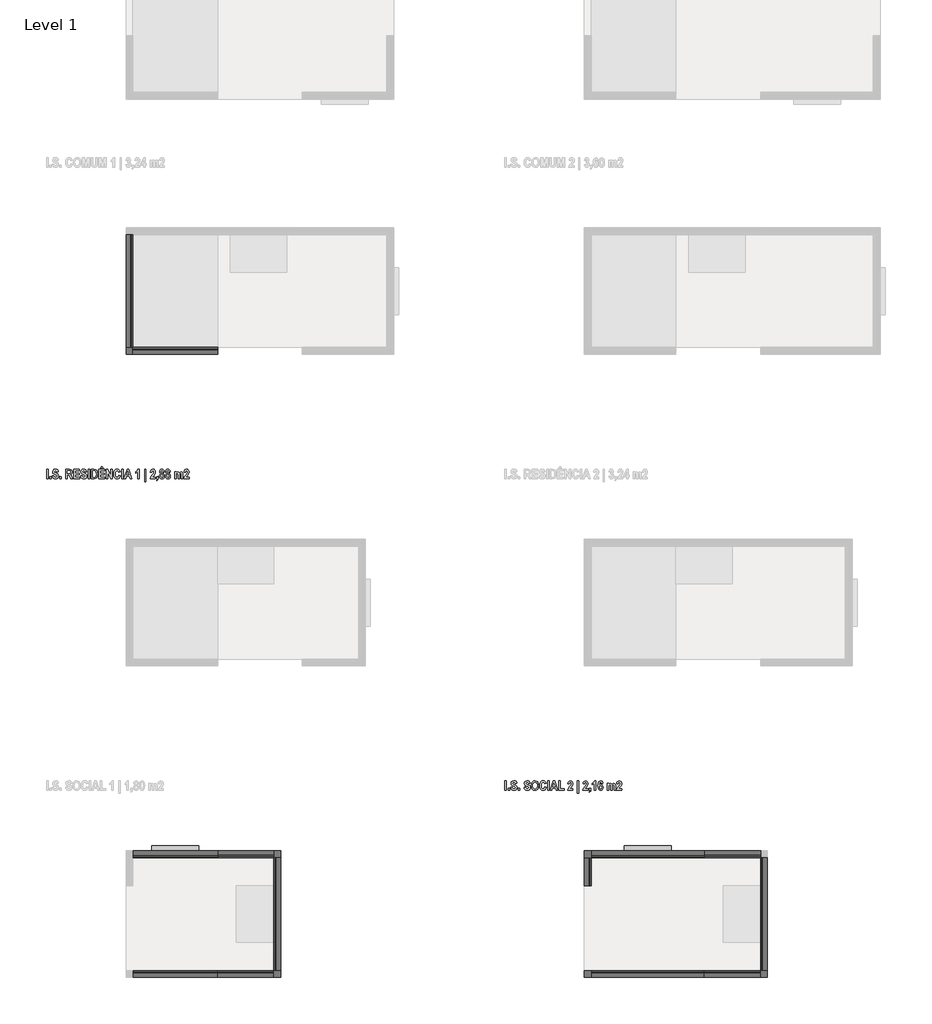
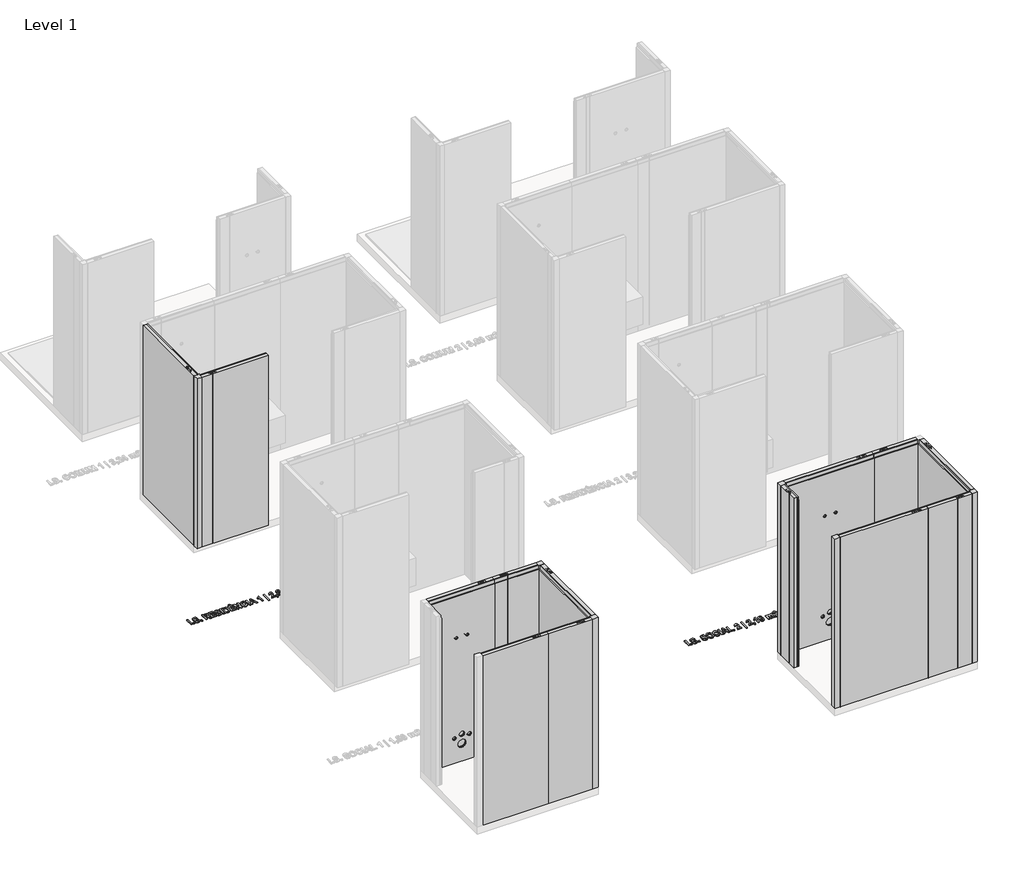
# One storey, part 2 of 10: 21 proxies.
"""IFC4 building model written with IfcOpenShell, lengths in millimetres."""

from ifc_helpers import new_model, si_unit, origin, origin_with_axes, place, context, project, spatial, polyline, outline, extrude, transform, mapped, element, save
from components import generic_models_3c551f1f, generic_models_aefc3c11, generic_models_87fa6935, generic_models_cf899abb, generic_models_87e237a0, generic_models_43d2ec2c, generic_models_7c24a650, generic_models_0c33305c, generic_models_edb91717

model = new_model("IFC4")

# Units and contexts
model_context = context("Model", 3, world=origin())
ifc_project = project(units=[si_unit("LENGTHUNIT", "METRE", prefix="MILLI")], contexts=[model_context])

# Site, building, storey
site = spatial("IfcSite", under=ifc_project)
building = spatial("IfcBuilding", under=site)
storey = spatial("IfcBuildingStorey", under=building, Name="Level 1", Elevation=0.0)

# Proxies
placement = place(None, origin())
generic_models_shape = generic_models_3c551f1f(model_context)
element("IfcBuildingElementProxy", 1, Name="ParedeGeral_Blufab : Parede Geral - Largura 60 cm", ObjectType="ParedeGeral_Blufab : Parede Geral - Largura 60 cm", at=placement, inside=storey, context=model_context, shape_type="MappedRepresentation", body=[
    mapped(generic_models_shape, transform((-7871.3404571, -5512.1726672, 0.0), x_axis=(1.0, 0.0, 0.0), y_axis=(0.0, 1.0, 0.0), z_axis=(0.0, 0.0, 1.0))),
])
element("IfcBuildingElementProxy", 2, Name="ParedeGeral_Blufab : Parede Geral - Largura 60 cm", ObjectType="ParedeGeral_Blufab : Parede Geral - Largura 60 cm", at=placement, inside=storey, context=model_context, shape_type="MappedRepresentation", body=[
    mapped(generic_models_shape, transform((-7271.3404571, -6712.1726672, 0.0), x_axis=(-1.0, 0.0, 0.0), y_axis=(0.0, -1.0, 0.0), z_axis=(0.0, 0.0, 1.0))),
])
element("IfcBuildingElementProxy", 3, Name="ParedeGeral_Blufab : Parede Geral - Largura 60 cm", ObjectType="ParedeGeral_Blufab : Parede Geral - Largura 60 cm", at=placement, inside=storey, context=model_context, shape_type="MappedRepresentation", body=[
    mapped(generic_models_shape, transform((-2696.3404571, -5512.1726672, 0.0), x_axis=(1.0, 0.0, 0.0), y_axis=(0.0, 1.0, 0.0), z_axis=(0.0, 0.0, 1.0))),
])
element("IfcBuildingElementProxy", 4, Name="ParedeGeral_Blufab : Parede Geral - Largura 60 cm", ObjectType="ParedeGeral_Blufab : Parede Geral - Largura 60 cm", at=placement, inside=storey, context=model_context, shape_type="MappedRepresentation", body=[
    mapped(generic_models_shape, transform((-2096.3404571, -6712.1726672, 0.0), x_axis=(-1.0, 0.0, 0.0), y_axis=(0.0, -1.0, 0.0), z_axis=(0.0, 0.0, 1.0))),
])
generic_models_2_shape = generic_models_aefc3c11(model_context)
element("IfcBuildingElementProxy", 5, Name="ParedeGeral_Blufab : Parede Geral - Largura 90 cm", ObjectType="ParedeGeral_Blufab : Parede Geral - Largura 90 cm", at=placement, inside=storey, context=model_context, shape_type="MappedRepresentation", body=[
    mapped(generic_models_2_shape, transform((-7871.3404571, -6712.1726672, 0.0), x_axis=(-1.0, 0.0, 0.0), y_axis=(0.0, -1.0, 0.0), z_axis=(0.0, 0.0, 1.0))),
])
generic_models_3_shape = generic_models_87fa6935(model_context)
element("IfcBuildingElementProxy", 6, Name="ParedeGeral_Blufab : Parede Geral - Largura 120 cm", ObjectType="ParedeGeral_Blufab : Parede Geral - Largura 120 cm", at=placement, inside=storey, context=model_context, shape_type="MappedRepresentation", body=[
    mapped(generic_models_3_shape, transform((-8771.3404571, -85.8090572, 0.0), x_axis=(0.0, 1.0, 0.0), y_axis=(-1.0, 0.0, 0.0), z_axis=(0.0, 0.0, 1.0))),
])
element("IfcBuildingElementProxy", 7, Name="ParedeGeral_Blufab : Parede Geral - Largura 120 cm", ObjectType="ParedeGeral_Blufab : Parede Geral - Largura 120 cm", at=placement, inside=storey, context=model_context, shape_type="MappedRepresentation", body=[
    mapped(generic_models_3_shape, transform((-2696.3404571, -6712.1726672, 0.0), x_axis=(-1.0, 0.0, 0.0), y_axis=(0.0, -1.0, 0.0), z_axis=(0.0, 0.0, 1.0))),
])
generic_models_4_shape = generic_models_cf899abb(model_context)
element("IfcBuildingElementProxy", 8, Name="ParedeLavatório_Blufab : Parede Lavatório - Largura 120 cm", ObjectType="ParedeLavatório_Blufab : Parede Lavatório - Largura 120 cm", at=placement, inside=storey, context=model_context, shape_type="MappedRepresentation", body=[
    mapped(generic_models_4_shape, transform((-7271.3404571, -5512.1726672, 0.0), x_axis=(0.0, -1.0, 0.0), y_axis=(1.0, 0.0, 0.0), z_axis=(0.0, 0.0, 1.0))),
])
element("IfcBuildingElementProxy", 9, Name="ParedeLavatório_Blufab : Parede Lavatório - Largura 120 cm", ObjectType="ParedeLavatório_Blufab : Parede Lavatório - Largura 120 cm", at=placement, inside=storey, context=model_context, shape_type="MappedRepresentation", body=[
    mapped(generic_models_4_shape, transform((-2096.3404571, -5512.1726672, 0.0), x_axis=(0.0, -1.0, 0.0), y_axis=(1.0, 0.0, 0.0), z_axis=(0.0, 0.0, 1.0))),
])
generic_models_5_shape = generic_models_87e237a0(model_context)
element("IfcBuildingElementProxy", 10, Name="PerfilCanto_Blufab : Parede Geral - Largura 60 cm", ObjectType="PerfilCanto_Blufab : Parede Geral - Largura 60 cm", at=placement, inside=storey, context=model_context, shape_type="MappedRepresentation", body=[
    mapped(generic_models_5_shape, transform((-8844.3404571, -158.8090572, 0.0), x_axis=(1.0, 0.0, 0.0), y_axis=(0.0, 1.0, 0.0), z_axis=(0.0, 0.0, 1.0))),
])
element("IfcBuildingElementProxy", 11, Name="PerfilCanto_Blufab : Parede Geral - Largura 60 cm", ObjectType="PerfilCanto_Blufab : Parede Geral - Largura 60 cm", at=placement, inside=storey, context=model_context, shape_type="MappedRepresentation", body=[
    mapped(generic_models_5_shape, transform((-7271.3404571, -5512.1726672, 0.0), x_axis=(1.0, 0.0, 0.0), y_axis=(0.0, 1.0, 0.0), z_axis=(0.0, 0.0, 1.0))),
])
element("IfcBuildingElementProxy", 12, Name="PerfilCanto_Blufab : Parede Geral - Largura 60 cm", ObjectType="PerfilCanto_Blufab : Parede Geral - Largura 60 cm", at=placement, inside=storey, context=model_context, shape_type="MappedRepresentation", body=[
    mapped(generic_models_5_shape, transform((-7271.3404571, -6785.1726672, 0.0), x_axis=(1.0, 0.0, 0.0), y_axis=(0.0, 1.0, 0.0), z_axis=(0.0, 0.0, 1.0))),
])
element("IfcBuildingElementProxy", 13, Name="PerfilCanto_Blufab : Parede Geral - Largura 60 cm", ObjectType="PerfilCanto_Blufab : Parede Geral - Largura 60 cm", at=placement, inside=storey, context=model_context, shape_type="MappedRepresentation", body=[
    mapped(generic_models_5_shape, transform((-3969.3404571, -5512.1726672, 0.0), x_axis=(1.0, 0.0, 0.0), y_axis=(0.0, 1.0, 0.0), z_axis=(0.0, 0.0, 1.0))),
])
element("IfcBuildingElementProxy", 14, Name="PerfilCanto_Blufab : Parede Geral - Largura 60 cm", ObjectType="PerfilCanto_Blufab : Parede Geral - Largura 60 cm", at=placement, inside=storey, context=model_context, shape_type="MappedRepresentation", body=[
    mapped(generic_models_5_shape, transform((-3969.3404571, -6785.1726672, 0.0), x_axis=(1.0, 0.0, 0.0), y_axis=(0.0, 1.0, 0.0), z_axis=(0.0, 0.0, 1.0))),
])
element("IfcBuildingElementProxy", 15, Name="PerfilCanto_Blufab : Parede Geral - Largura 60 cm", ObjectType="PerfilCanto_Blufab : Parede Geral - Largura 60 cm", at=placement, inside=storey, context=model_context, shape_type="MappedRepresentation", body=[
    mapped(generic_models_5_shape, transform((-2096.3404571, -6785.1726672, 0.0), x_axis=(1.0, 0.0, 0.0), y_axis=(0.0, 1.0, 0.0), z_axis=(0.0, 0.0, 1.0))),
])
generic_models_6_shape = generic_models_43d2ec2c(model_context)
element("IfcBuildingElementProxy", 16, Name="ParedeGeral_Blufab : Parede Geral - Largura 30 cm", ObjectType="ParedeGeral_Blufab : Parede Geral - Largura 30 cm", at=placement, inside=storey, context=model_context, shape_type="MappedRepresentation", body=[
    mapped(generic_models_6_shape, transform((-3896.3404571, -5812.1726672, 0.0), x_axis=(0.0, 1.0, 0.0), y_axis=(-1.0, 0.0, 0.0), z_axis=(0.0, 0.0, 1.0))),
])
generic_models_7_shape = generic_models_7c24a650(model_context)
element("IfcBuildingElementProxy", 17, Name="ParedeGeral_Blufab : Parede Geral - Largura 90 cm", ObjectType="ParedeGeral_Blufab : Parede Geral - Largura 90 cm", at=placement, inside=storey, context=model_context, shape_type="MappedRepresentation", body=[
    mapped(generic_models_7_shape, transform((-8771.3404571, -85.8090572, 0.0), x_axis=(1.0, 0.0, 0.0), y_axis=(0.0, 1.0, 0.0), z_axis=(0.0, 0.0, 1.0))),
])
generic_models_8_shape = generic_models_0c33305c(model_context)
element("IfcBuildingElementProxy", 18, Name="ParedeSanita_Blufab : Parede Sanita - Largura 90 cm", ObjectType="ParedeSanita_Blufab : Parede Sanita - Largura 90 cm", at=placement, inside=storey, context=model_context, shape_type="MappedRepresentation", body=[
    mapped(generic_models_8_shape, transform((-7871.3404571, -5512.1726672, 0.0), x_axis=(-1.0, 0.0, 0.0), y_axis=(0.0, -1.0, 0.0), z_axis=(0.0, 0.0, 1.0))),
])
generic_models_9_shape = generic_models_edb91717(model_context)
element("IfcBuildingElementProxy", 19, Name="ParedeSanita_Blufab : Parede Sanita- Largura 120 cm", ObjectType="ParedeSanita_Blufab : Parede Sanita- Largura 120 cm", at=placement, inside=storey, context=model_context, shape_type="MappedRepresentation", body=[
    mapped(generic_models_9_shape, transform((-2696.3404571, -5512.1726672, 0.0), x_axis=(-1.0, 0.0, 0.0), y_axis=(0.0, -1.0, 0.0), z_axis=(0.0, 0.0, 1.0))),
])
element("IfcBuildingElementProxy", 20, Name="24\" Arial", ObjectType="24\" Arial", at=placement, inside=storey, context=model_context, shape_type="SweptSolid", body=[
    extrude(outline(polyline([(-9690.0185436, -1482.0001714), (-9690.0185436, -1381.2815676), (-9673.7736075, -1381.2815676), (-9673.7736075, -1482.0001714), (-9690.0185436, -1482.0001714)])), origin_with_axes(), (0.0, 0.0, 1.0), 10.0),
    extrude(outline(polyline([(-9657.5286714, -1482.0001714), (-9657.5286714, -1462.506248), (-9641.2837353, -1462.506248), (-9641.2837353, -1482.0001714), (-9657.5286714, -1482.0001714)])), origin_with_axes(), (0.0, 0.0, 1.0), 10.0),
    extrude(outline(polyline([(-9628.2877864, -1449.5102992), (-9612.0428504, -1447.8858056), (-9606.1857894, -1461.2878778), (-9594.0972725, -1465.7552353), (-9582.2435457, -1461.9985938), (-9577.9284846, -1452.708521), (-9579.4514473, -1447.1750896), (-9584.0964837, -1443.4184481), (-9598.9707533, -1438.2149921), (-9614.3653686, -1431.1078325), (-9622.14517, -1421.1578092), (-9625.0387992, -1407.8826504), (-9621.2948491, -1393.0210722), (-9610.9640851, -1383.0329748), (-9594.6810749, -1379.657074), (-9581.7295458, -1381.5512589), (-9571.9635471, -1387.2338137), (-9565.7130541, -1396.4382199), (-9563.3080421, -1408.897959), (-9579.5529782, -1410.5224526), (-9584.2995454, -1400.4074416), (-9594.7318403, -1397.5265037), (-9605.1387525, -1400.2678367), (-9608.7938631, -1407.0704036), (-9605.9256166, -1413.7968225), (-9591.3559396, -1420.2186488), (-9573.3342136, -1428.1126724), (-9564.6787086, -1438.2530661), (-9561.6835485, -1453.3430888), (-9563.6856099, -1465.1397045), (-9569.6917943, -1474.8930118), (-9579.9622744, -1481.4417517), (-9594.757223, -1483.624665), (-9608.1513632, -1481.4925171), (-9618.2045038, -1475.0960735), (-9624.9166449, -1464.4353342), (-9628.2877864, -1449.5102992)])), origin_with_axes(), (0.0, 0.0, 1.0), 10.0),
    extrude(outline(polyline([(-9548.6875996, -1482.0001714), (-9548.6875996, -1462.506248), (-9532.4426635, -1462.506248), (-9532.4426635, -1482.0001714), (-9548.6875996, -1482.0001714)])), origin_with_axes(), (0.0, 0.0, 1.0), 10.0),
    extrude(outline(polyline([(-9483.7078552, -1482.0001714), (-9483.7078552, -1381.2815676), (-9449.0858352, -1381.2815676), (-9430.1122575, -1383.9848265), (-9420.7587279, -1393.3637388), (-9417.1036173, -1409.3294651), (-9418.490148, -1419.958476), (-9422.64974, -1428.2903514), (-9429.3602946, -1434.1410667), (-9438.3997132, -1437.3265971), (-9429.3253934, -1446.0328675), (-9419.4388268, -1462.4808653), (-9408.9811492, -1482.0001714), (-9430.8610475, -1482.0001714), (-9442.4101818, -1460.5010137), (-9450.9514646, -1445.5379046), (-9455.8249454, -1441.0070904), (-9464.0870184, -1439.7633375), (-9467.4629192, -1439.7633375), (-9467.4629192, -1482.0001714), (-9483.7078552, -1482.0001714)]), holes=[polyline([(-9467.4629192, -1423.5184014), (-9454.9492418, -1423.5184014), (-9440.3668734, -1422.5030929), (-9435.2903309, -1418.4164762), (-9433.3485534, -1410.2432427), (-9435.2903309, -1402.3746018), (-9440.5826265, -1398.2879851), (-9454.2639086, -1397.5265037), (-9467.4629192, -1397.5265037), (-9467.4629192, -1423.5184014)])]), origin_with_axes(), (0.0, 0.0, 1.0), 10.0),
    extrude(outline(polyline([(-9400.8586812, -1482.0001714), (-9400.8586812, -1381.2815676), (-9340.7524177, -1381.2815676), (-9340.7524177, -1397.5265037), (-9384.6137451, -1397.5265037), (-9384.6137451, -1421.8939078), (-9344.0014049, -1421.8939078), (-9344.0014049, -1438.1388439), (-9384.6137451, -1438.1388439), (-9384.6137451, -1465.7552353), (-9339.1279241, -1465.7552353), (-9339.1279241, -1482.0001714), (-9400.8586812, -1482.0001714)])), origin_with_axes(), (0.0, 0.0, 1.0), 10.0),
    extrude(outline(polyline([(-9327.7564688, -1449.5102992), (-9311.5115327, -1447.8858056), (-9305.6544718, -1461.2878778), (-9293.5659549, -1465.7552353), (-9281.7122281, -1461.9985938), (-9277.3971669, -1452.708521), (-9278.9201297, -1447.1750896), (-9283.5651661, -1443.4184481), (-9298.4394357, -1438.2149921), (-9313.8340509, -1431.1078325), (-9321.6138523, -1421.1578092), (-9324.5074816, -1407.8826504), (-9320.7635315, -1393.0210722), (-9310.4327674, -1383.0329748), (-9294.1497573, -1379.657074), (-9281.1982281, -1381.5512589), (-9271.4322294, -1387.2338137), (-9265.1817365, -1396.4382199), (-9262.7767244, -1408.897959), (-9279.0216605, -1410.5224526), (-9283.7682278, -1400.4074416), (-9294.2005227, -1397.5265037), (-9304.6074349, -1400.2678367), (-9308.2625455, -1407.0704036), (-9305.394299, -1413.7968225), (-9290.8246219, -1420.2186488), (-9272.8028959, -1428.1126724), (-9264.1473909, -1438.2530661), (-9261.1522308, -1453.3430888), (-9263.1542923, -1465.1397045), (-9269.1604767, -1474.8930118), (-9279.4309568, -1481.4417517), (-9294.2259054, -1483.624665), (-9307.6200456, -1481.4925171), (-9317.6731862, -1475.0960735), (-9324.3853273, -1464.4353342), (-9327.7564688, -1449.5102992)])), origin_with_axes(), (0.0, 0.0, 1.0), 10.0),
    extrude(outline(polyline([(-9248.156282, -1482.0001714), (-9248.156282, -1381.2815676), (-9231.9113459, -1381.2815676), (-9231.9113459, -1482.0001714), (-9248.156282, -1482.0001714)])), origin_with_axes(), (0.0, 0.0, 1.0), 10.0),
    extrude(outline(polyline([(-9215.6664098, -1381.2815676), (-9185.6894262, -1381.2815676), (-9168.5307124, -1383.8579129), (-9157.8699731, -1392.551492), (-9150.2170852, -1408.4156874), (-9147.4376782, -1432.6815607), (-9150.3439988, -1455.3737058), (-9157.7176768, -1470.6540988), (-9168.5180211, -1479.1446162), (-9184.8010312, -1482.0001714), (-9215.6664098, -1482.0001714), (-9215.6664098, -1381.2815676)]), holes=[polyline([(-9199.4214737, -1397.5265037), (-9199.4214737, -1465.7552353), (-9186.7808828, -1465.7552353), (-9175.0286868, -1464.2068898), (-9169.051058, -1459.5364707), (-9165.2055771, -1449.6625955), (-9163.6826143, -1431.8946966), (-9165.2436511, -1413.8222052), (-9170.1044406, -1403.4279844), (-9178.1253778, -1398.4402813), (-9191.7812772, -1397.5265037), (-9199.4214737, -1397.5265037)])]), origin_with_axes(), (0.0, 0.0, 1.0), 10.0),
    extrude(outline(polyline([(-9132.8172357, -1482.0001714), (-9132.8172357, -1381.2815676), (-9072.7109722, -1381.2815676), (-9072.7109722, -1397.5265037), (-9116.5722996, -1397.5265037), (-9116.5722996, -1421.8939078), (-9075.9599594, -1421.8939078), (-9075.9599594, -1438.1388439), (-9116.5722996, -1438.1388439), (-9116.5722996, -1465.7552353), (-9071.0864786, -1465.7552353), (-9071.0864786, -1482.0001714), (-9132.8172357, -1482.0001714)])), origin_with_axes(), (0.0, 0.0, 1.0), 10.0),
    extrude(outline(polyline([(-9121.4457805, -1374.7835932), (-9109.8712635, -1353.6651762), (-9095.5300309, -1353.6651762), (-9084.0824275, -1374.7835932), (-9097.0783763, -1374.7835932), (-9102.764104, -1365.0366315), (-9108.4498316, -1374.7835932), (-9121.4457805, -1374.7835932)])), origin_with_axes(), (0.0, 0.0, 1.0), 10.0),
    extrude(outline(polyline([(-9056.4660361, -1482.0001714), (-9056.4660361, -1381.2815676), (-9039.5865322, -1381.2815676), (-9007.7312278, -1448.5457561), (-9007.7312278, -1381.2815676), (-8991.4862917, -1381.2815676), (-8991.4862917, -1482.0001714), (-9008.8988326, -1482.0001714), (-9040.2211, -1416.309711), (-9040.2211, -1482.0001714), (-9056.4660361, -1482.0001714)])), origin_with_axes(), (0.0, 0.0, 1.0), 10.0),
    extrude(outline(polyline([(-8921.6330666, -1444.6368183), (-8905.3881305, -1451.1347928), (-8910.3885249, -1465.7615809), (-8917.8764251, -1475.8321722), (-8927.6170411, -1481.6765418), (-8939.3755827, -1483.624665), (-8953.90084, -1480.5216283), (-8965.3928632, -1471.2125185), (-8973.9976027, -1454.3710886), (-8976.8658493, -1432.5292644), (-8973.97222, -1409.6086749), (-8965.2913323, -1392.2722822), (-8953.507408, -1382.810876), (-8938.2587433, -1379.657074), (-8925.5546957, -1382.0113206), (-8915.1097094, -1389.0740604), (-8905.3881305, -1408.897959), (-8921.6330666, -1413.7714398), (-8928.0802756, -1401.7146513), (-8939.4263481, -1397.5265037), (-8947.9295569, -1399.4841454), (-8954.7067411, -1405.3570705), (-8959.1423702, -1415.7417728), (-8960.6209132, -1431.2347461), (-8959.1994813, -1447.2417192), (-8954.9351855, -1457.8485203), (-8948.399137, -1463.7785565), (-8940.1624468, -1465.7552353), (-8928.6386953, -1460.6913841), (-8921.6330666, -1444.6368183)])), origin_with_axes(), (0.0, 0.0, 1.0), 10.0),
    extrude(outline(polyline([(-8890.767688, -1482.0001714), (-8890.767688, -1381.2815676), (-8874.5227519, -1381.2815676), (-8874.5227519, -1482.0001714), (-8890.767688, -1482.0001714)])), origin_with_axes(), (0.0, 0.0, 1.0), 10.0),
    extrude(outline(polyline([(-8783.5511098, -1482.0001714), (-8800.5067618, -1482.0001714), (-8808.1977238, -1457.6327672), (-8841.7536699, -1457.6327672), (-8849.4446318, -1482.0001714), (-8866.4002839, -1482.0001714), (-8832.9204859, -1381.2815676), (-8817.0309078, -1381.2815676), (-8783.5511098, -1482.0001714)]), holes=[polyline([(-8813.3504144, -1441.3878311), (-8824.9756968, -1404.481367), (-8836.6009792, -1441.3878311), (-8813.3504144, -1441.3878311)])]), origin_with_axes(), (0.0, 0.0, 1.0), 10.0),
    extrude(outline(polyline([(-8705.5754166, -1482.0001714), (-8721.8203527, -1482.0001714), (-8721.8203527, -1408.897959), (-8741.314276, -1423.5184014), (-8741.314276, -1405.6489717), (-8727.8487469, -1396.4858125), (-8718.165242, -1381.2815676), (-8705.5754166, -1381.2815676), (-8705.5754166, -1482.0001714)])), origin_with_axes(), (0.0, 0.0, 1.0), 10.0),
    extrude(outline(polyline([(-8645.469153, -1511.2410563), (-8645.469153, -1379.657074), (-8632.4732042, -1379.657074), (-8632.4732042, -1511.2410563), (-8645.469153, -1511.2410563)])), origin_with_axes(), (0.0, 0.0, 1.0), 10.0),
    extrude(outline(polyline([(-8531.7546004, -1465.7552353), (-8531.7546004, -1482.0001714), (-8586.9873831, -1482.0001714), (-8581.606248, -1462.7981492), (-8564.1429418, -1438.9003253), (-8551.5023509, -1422.9599818), (-8547.9995365, -1410.750897), (-8550.829709, -1400.8643304), (-8558.2541524, -1397.5265037), (-8566.0085711, -1401.1816143), (-8569.1179534, -1412.1469462), (-8585.3628895, -1410.5224526), (-8582.5009887, -1397.4281457), (-8576.8089154, -1388.3506531), (-8568.5278054, -1383.048839), (-8557.8987944, -1381.2815676), (-8546.5241663, -1383.4264068), (-8538.3414144, -1389.8609245), (-8533.4013039, -1399.0685035), (-8531.7546004, -1409.5325268), (-8533.4298595, -1421.7035375), (-8538.5952415, -1433.5699556), (-8550.2332152, -1448.7995832), (-8559.840572, -1460.3233348), (-8563.1022505, -1465.7552353), (-8531.7546004, -1465.7552353)])), origin_with_axes(), (0.0, 0.0, 1.0), 10.0),
    extrude(outline(polyline([(-8518.7586516, -1462.506248), (-8502.5137155, -1462.506248), (-8502.5137155, -1476.46674), (-8505.4073447, -1494.1077253), (-8517.3118369, -1504.7430819), (-8520.3831452, -1496.8236755), (-8513.0348499, -1491.5313799), (-8510.6361835, -1482.0001714), (-8518.7586516, -1482.0001714), (-8518.7586516, -1462.506248)])), origin_with_axes(), (0.0, 0.0, 1.0), 10.0),
    extrude(outline(polyline([(-8475.1257685, -1427.8588453), (-8484.6823598, -1419.6475378), (-8487.893273, -1407.1465518), (-8486.1831127, -1396.5048495), (-8481.0526319, -1388.2871963), (-8473.0285219, -1383.0329748), (-8462.6374739, -1381.2815676), (-8451.8371297, -1383.1535427), (-8443.9557974, -1388.7694678), (-8439.1394277, -1397.0696149), (-8437.5339711, -1406.9942555), (-8440.9987114, -1419.6856118), (-8450.4537718, -1427.8588453), (-8439.526514, -1437.4408193), (-8435.9094775, -1452.6323728), (-8439.3361437, -1469.0169138), (-8448.7912042, -1479.8680235), (-8462.3328814, -1483.624665), (-8473.1078429, -1481.5686652), (-8481.8268047, -1475.4006661), (-8487.5950261, -1465.7488896), (-8489.5177666, -1453.2415579), (-8485.7991992, -1437.7454119), (-8475.1257685, -1427.8588453)]), holes=[polyline([(-8471.6483369, -1408.7964281), (-8468.9070039, -1417.2996368), (-8461.9775234, -1420.2694142), (-8454.9338206, -1417.2996368), (-8452.1544136, -1408.7964281), (-8454.8957466, -1400.4962811), (-8461.7744617, -1397.5265037), (-8468.8689299, -1400.5216638), (-8471.6483369, -1408.7964281)]), polyline([(-8473.2728305, -1451.2617063), (-8470.1253741, -1463.1915813), (-8462.5613258, -1467.3797289), (-8455.1495737, -1463.3819516), (-8452.1544136, -1451.3886199), (-8455.2130305, -1440.5121275), (-8462.7390048, -1436.5143503), (-8470.2142136, -1440.5502016), (-8473.2728305, -1451.2617063)])]), origin_with_axes(), (0.0, 0.0, 1.0), 10.0),
    extrude(outline(polyline([(-8411.7705178, -1427.8588453), (-8421.3271091, -1419.6475378), (-8424.5380222, -1407.1465518), (-8422.827862, -1396.5048495), (-8417.6973812, -1388.2871963), (-8409.6732711, -1383.0329748), (-8399.2822232, -1381.2815676), (-8388.4818789, -1383.1535427), (-8380.6005467, -1388.7694678), (-8375.7841769, -1397.0696149), (-8374.1787204, -1406.9942555), (-8377.6434606, -1419.6856118), (-8387.0985211, -1427.8588453), (-8376.1712633, -1437.4408193), (-8372.5542267, -1452.6323728), (-8375.980893, -1469.0169138), (-8385.4359534, -1479.8680235), (-8398.9776306, -1483.624665), (-8409.7525921, -1481.5686652), (-8418.4715539, -1475.4006661), (-8424.2397754, -1465.7488896), (-8426.1625158, -1453.2415579), (-8422.4439484, -1437.7454119), (-8411.7705178, -1427.8588453)]), holes=[polyline([(-8408.2930861, -1408.7964281), (-8405.5517532, -1417.2996368), (-8398.6222726, -1420.2694142), (-8391.5785699, -1417.2996368), (-8388.7991628, -1408.7964281), (-8391.5404958, -1400.4962811), (-8398.4192109, -1397.5265037), (-8405.5136791, -1400.5216638), (-8408.2930861, -1408.7964281)]), polyline([(-8409.9175798, -1451.2617063), (-8406.7701234, -1463.1915813), (-8399.206075, -1467.3797289), (-8391.7943229, -1463.3819516), (-8388.7991628, -1451.3886199), (-8391.8577797, -1440.5121275), (-8399.383754, -1436.5143503), (-8406.8589629, -1440.5502016), (-8409.9175798, -1451.2617063)])]), origin_with_axes(), (0.0, 0.0, 1.0), 10.0),
    extrude(outline(polyline([(-8327.0684057, -1408.897959), (-8312.4479632, -1408.897959), (-8312.4479632, -1418.7972169), (-8303.8939891, -1410.1290205), (-8293.8424349, -1407.2734653), (-8283.9051029, -1410.1417119), (-8277.0136964, -1418.8225996), (-8268.5104876, -1410.1417119), (-8258.8396741, -1407.2734653), (-8248.3439224, -1410.1924773), (-8241.6428863, -1418.5560811), (-8239.3457508, -1435.2705974), (-8239.3457508, -1482.0001714), (-8255.5906869, -1482.0001714), (-8255.5906869, -1441.2355349), (-8257.4563163, -1427.0465985), (-8263.713155, -1423.5184014), (-8271.9625366, -1428.455339), (-8275.0846102, -1447.758892), (-8275.0846102, -1482.0001714), (-8291.3295463, -1482.0001714), (-8291.3295463, -1442.9107939), (-8292.5732992, -1427.9603761), (-8299.2489526, -1423.5184014), (-8305.4677172, -1425.8028456), (-8309.5670253, -1432.478499), (-8310.8234696, -1447.3527686), (-8310.8234696, -1482.0001714), (-8327.0684057, -1482.0001714), (-8327.0684057, -1408.897959)])), origin_with_axes(), (0.0, 0.0, 1.0), 10.0),
    extrude(outline(polyline([(-8174.3660065, -1465.7552353), (-8174.3660065, -1482.0001714), (-8229.5987892, -1482.0001714), (-8224.2176541, -1462.7981492), (-8206.7543478, -1438.9003253), (-8194.1137569, -1422.9599818), (-8190.6109426, -1410.750897), (-8193.441115, -1400.8643304), (-8200.8655585, -1397.5265037), (-8208.6199772, -1401.1816143), (-8211.7293595, -1412.1469462), (-8227.9742956, -1410.5224526), (-8225.1123947, -1397.4281457), (-8219.4203214, -1388.3506531), (-8211.1392114, -1383.048839), (-8200.5102005, -1381.2815676), (-8189.1355724, -1383.4264068), (-8180.9528204, -1389.8609245), (-8176.0127099, -1399.0685035), (-8174.3660065, -1409.5325268), (-8176.0412655, -1421.7035375), (-8181.2066475, -1433.5699556), (-8192.8446213, -1448.7995832), (-8202.451978, -1460.3233348), (-8205.7136566, -1465.7552353), (-8174.3660065, -1465.7552353)])), origin_with_axes(), (0.0, 0.0, 1.0), 10.0),
])
element("IfcBuildingElementProxy", 21, Name="24\" Arial", ObjectType="24\" Arial", at=placement, inside=storey, context=model_context, shape_type="SweptSolid", body=[
    extrude(outline(polyline([(-4815.0185436, -4795.1819763), (-4815.0185436, -4694.4633726), (-4798.7736075, -4694.4633726), (-4798.7736075, -4795.1819763), (-4815.0185436, -4795.1819763)])), origin_with_axes(), (0.0, 0.0, 1.0), 10.0),
    extrude(outline(polyline([(-4782.5286714, -4795.1819763), (-4782.5286714, -4775.688053), (-4766.2837353, -4775.688053), (-4766.2837353, -4795.1819763), (-4782.5286714, -4795.1819763)])), origin_with_axes(), (0.0, 0.0, 1.0), 10.0),
    extrude(outline(polyline([(-4753.2877864, -4762.6921041), (-4737.0428504, -4761.0676105), (-4731.1857894, -4774.4696828), (-4719.0972725, -4778.9370402), (-4707.2435457, -4775.1803988), (-4702.9284846, -4765.8903259), (-4704.4514473, -4760.3568946), (-4709.0964837, -4756.6002531), (-4723.9707533, -4751.396797), (-4739.3653686, -4744.2896375), (-4747.14517, -4734.3396141), (-4750.0387992, -4721.0644554), (-4746.2948491, -4706.2028772), (-4735.9640851, -4696.2147797), (-4719.6810749, -4692.838879), (-4706.7295458, -4694.7330639), (-4696.9635471, -4700.4156187), (-4690.7130541, -4709.6200248), (-4688.3080421, -4722.0797639), (-4704.5529782, -4723.7042575), (-4709.2995454, -4713.5892465), (-4719.7318403, -4710.7083087), (-4730.1387525, -4713.4496416), (-4733.7938631, -4720.2522086), (-4730.9256166, -4726.9786275), (-4716.3559396, -4733.4004538), (-4698.3342136, -4741.2944774), (-4689.6787086, -4751.4348711), (-4686.6835485, -4766.5248937), (-4688.6856099, -4778.3215094), (-4694.6917943, -4788.0748168), (-4704.9622744, -4794.6235566), (-4719.757223, -4796.8064699), (-4733.1513632, -4794.6743221), (-4743.2045038, -4788.2778785), (-4749.9166449, -4777.6171392), (-4753.2877864, -4762.6921041)])), origin_with_axes(), (0.0, 0.0, 1.0), 10.0),
    extrude(outline(polyline([(-4673.6875996, -4795.1819763), (-4673.6875996, -4775.688053), (-4657.4426635, -4775.688053), (-4657.4426635, -4795.1819763), (-4673.6875996, -4795.1819763)])), origin_with_axes(), (0.0, 0.0, 1.0), 10.0),
    extrude(outline(polyline([(-4611.9568425, -4762.6921041), (-4595.7119064, -4761.0676105), (-4589.8548454, -4774.4696828), (-4577.7663285, -4778.9370402), (-4565.9126017, -4775.1803988), (-4561.5975406, -4765.8903259), (-4563.1205033, -4760.3568946), (-4567.7655398, -4756.6002531), (-4582.6398094, -4751.396797), (-4598.0344246, -4744.2896375), (-4605.814226, -4734.3396141), (-4608.7078553, -4721.0644554), (-4604.9639051, -4706.2028772), (-4594.6331411, -4696.2147797), (-4578.3501309, -4692.838879), (-4565.3986018, -4694.7330639), (-4555.6326031, -4700.4156187), (-4549.3821101, -4709.6200248), (-4546.9770981, -4722.0797639), (-4563.2220342, -4723.7042575), (-4567.9686015, -4713.5892465), (-4578.4008964, -4710.7083087), (-4588.8078085, -4713.4496416), (-4592.4629192, -4720.2522086), (-4589.5946726, -4726.9786275), (-4575.0249956, -4733.4004538), (-4557.0032696, -4741.2944774), (-4548.3477646, -4751.4348711), (-4545.3526045, -4766.5248937), (-4547.354666, -4778.3215094), (-4553.3608503, -4788.0748168), (-4563.6313304, -4794.6235566), (-4578.4262791, -4796.8064699), (-4591.8204192, -4794.6743221), (-4601.8735599, -4788.2778785), (-4608.5857009, -4777.6171392), (-4611.9568425, -4762.6921041)])), origin_with_axes(), (0.0, 0.0, 1.0), 10.0),
    extrude(outline(polyline([(-4535.6056428, -4745.4318595), (-4530.3133473, -4715.848308), (-4516.4924602, -4698.5372979), (-4507.0564368, -4694.2634837), (-4495.8055494, -4692.838879), (-4479.8207861, -4696.2179526), (-4467.0977014, -4706.3551734), (-4458.7785174, -4722.7301959), (-4456.005456, -4744.8226744), (-4458.943505, -4767.2990665), (-4467.757652, -4784.2674099), (-4479.90328, -4793.6717049), (-4495.7294013, -4796.8064699), (-4511.6697448, -4793.7034333), (-4523.8534469, -4784.3943234), (-4532.6675939, -4767.5592393), (-4535.6056428, -4745.4318595)]), holes=[polyline([(-4519.3607068, -4744.7465263), (-4517.660065, -4759.7128082), (-4512.5581398, -4770.3957574), (-4504.943326, -4776.8017195), (-4495.7040186, -4778.9370402), (-4486.4425013, -4776.8175837), (-4478.9133542, -4770.4592142), (-4473.9161326, -4759.7096354), (-4472.2503921, -4744.416551), (-4473.8717129, -4729.4312321), (-4478.7356752, -4718.9449989), (-4486.2204026, -4712.7674812), (-4495.7040186, -4710.7083087), (-4505.2130173, -4712.7865183), (-4512.7738928, -4719.021147), (-4517.7140033, -4729.6089111), (-4519.3607068, -4744.7465263)])]), origin_with_axes(), (0.0, 0.0, 1.0), 10.0),
    extrude(outline(polyline([(-4391.0257117, -4757.8186233), (-4374.7807756, -4764.3165977), (-4379.78117, -4778.9433859), (-4387.2690702, -4789.0139771), (-4397.0096862, -4794.8583467), (-4408.7682278, -4796.8064699), (-4423.2934851, -4793.7034333), (-4434.7855082, -4784.3943234), (-4443.3902478, -4767.5528936), (-4446.2584944, -4745.7110694), (-4443.3648651, -4722.7904799), (-4434.6839774, -4705.4540871), (-4422.9000531, -4695.992681), (-4407.6513884, -4692.838879), (-4394.9473408, -4695.1931256), (-4384.5023545, -4702.2558653), (-4374.7807756, -4722.0797639), (-4391.0257117, -4726.9532447), (-4397.4729207, -4714.8964562), (-4408.8189932, -4710.7083087), (-4417.3222019, -4712.6659504), (-4424.0993862, -4718.5388755), (-4428.5350153, -4728.9235778), (-4430.0135583, -4744.416551), (-4428.5921264, -4760.4235242), (-4424.3278306, -4771.0303252), (-4417.7917821, -4776.9603615), (-4409.5550919, -4778.9370402), (-4398.0313403, -4773.8731891), (-4391.0257117, -4757.8186233)])), origin_with_axes(), (0.0, 0.0, 1.0), 10.0),
    extrude(outline(polyline([(-4360.1603331, -4795.1819763), (-4360.1603331, -4694.4633726), (-4343.915397, -4694.4633726), (-4343.915397, -4795.1819763), (-4360.1603331, -4795.1819763)])), origin_with_axes(), (0.0, 0.0, 1.0), 10.0),
    extrude(outline(polyline([(-4252.9437549, -4795.1819763), (-4269.8994069, -4795.1819763), (-4277.5903689, -4770.8145722), (-4311.146315, -4770.8145722), (-4318.8372769, -4795.1819763), (-4335.792929, -4795.1819763), (-4302.313131, -4694.4633726), (-4286.4235529, -4694.4633726), (-4252.9437549, -4795.1819763)]), holes=[polyline([(-4282.7430595, -4754.5696361), (-4294.3683419, -4717.6631719), (-4305.9936243, -4754.5696361), (-4282.7430595, -4754.5696361)])]), origin_with_axes(), (0.0, 0.0, 1.0), 10.0),
    extrude(outline(polyline([(-4244.8212869, -4795.1819763), (-4244.8212869, -4694.4633726), (-4228.5763508, -4694.4633726), (-4228.5763508, -4778.9370402), (-4186.3395169, -4778.9370402), (-4186.3395169, -4795.1819763), (-4244.8212869, -4795.1819763)])), origin_with_axes(), (0.0, 0.0, 1.0), 10.0),
    extrude(outline(polyline([(-4092.1188876, -4778.9370402), (-4092.1188876, -4795.1819763), (-4147.3516703, -4795.1819763), (-4141.9705352, -4775.9799542), (-4124.5072289, -4752.0821303), (-4111.866638, -4736.1417867), (-4108.3638237, -4723.9327019), (-4111.1939962, -4714.0461354), (-4118.6184396, -4710.7083087), (-4126.3728583, -4714.3634193), (-4129.4822406, -4725.3287511), (-4145.7271767, -4723.7042575), (-4142.8652759, -4710.6099506), (-4137.1732025, -4701.532458), (-4128.8920926, -4696.2306439), (-4118.2630816, -4694.4633726), (-4106.8884535, -4696.6082118), (-4098.7057015, -4703.0427294), (-4093.7655911, -4712.2503084), (-4092.1188876, -4722.7143317), (-4093.7941466, -4734.8853424), (-4098.9595287, -4746.7517606), (-4110.5975024, -4761.9813882), (-4120.2048591, -4773.5051397), (-4123.4665377, -4778.9370402), (-4092.1188876, -4778.9370402)])), origin_with_axes(), (0.0, 0.0, 1.0), 10.0),
    extrude(outline(polyline([(-4045.008573, -4824.4228613), (-4045.008573, -4692.838879), (-4032.0126241, -4692.838879), (-4032.0126241, -4824.4228613), (-4045.008573, -4824.4228613)])), origin_with_axes(), (0.0, 0.0, 1.0), 10.0),
    extrude(outline(polyline([(-3931.2940203, -4778.9370402), (-3931.2940203, -4795.1819763), (-3986.526803, -4795.1819763), (-3981.145668, -4775.9799542), (-3963.6823617, -4752.0821303), (-3951.0417708, -4736.1417867), (-3947.5389564, -4723.9327019), (-3950.3691289, -4714.0461354), (-3957.7935723, -4710.7083087), (-3965.547991, -4714.3634193), (-3968.6573733, -4725.3287511), (-3984.9023094, -4723.7042575), (-3982.0404086, -4710.6099506), (-3976.3483353, -4701.532458), (-3968.0672253, -4696.2306439), (-3957.4382143, -4694.4633726), (-3946.0635862, -4696.6082118), (-3937.8808343, -4703.0427294), (-3932.9407238, -4712.2503084), (-3931.2940203, -4722.7143317), (-3932.9692794, -4734.8853424), (-3938.1346614, -4746.7517606), (-3949.7726351, -4761.9813882), (-3959.3799919, -4773.5051397), (-3962.6416704, -4778.9370402), (-3931.2940203, -4778.9370402)])), origin_with_axes(), (0.0, 0.0, 1.0), 10.0),
    extrude(outline(polyline([(-3918.2980715, -4775.688053), (-3902.0531354, -4775.688053), (-3902.0531354, -4789.648545), (-3904.9467646, -4807.2895302), (-3916.8512568, -4817.9248868), (-3919.9225651, -4810.0054805), (-3912.5742698, -4804.7131849), (-3910.1756034, -4795.1819763), (-3918.2980715, -4795.1819763), (-3918.2980715, -4775.688053)])), origin_with_axes(), (0.0, 0.0, 1.0), 10.0),
    extrude(outline(polyline([(-3848.4448463, -4795.1819763), (-3864.6897824, -4795.1819763), (-3864.6897824, -4722.0797639), (-3884.1837057, -4736.7002064), (-3884.1837057, -4718.8307767), (-3870.7181766, -4709.6676174), (-3861.0346717, -4694.4633726), (-3848.4448463, -4694.4633726), (-3848.4448463, -4795.1819763)])), origin_with_axes(), (0.0, 0.0, 1.0), 10.0),
    extrude(outline(polyline([(-3773.7181403, -4720.4552703), (-3789.9630764, -4722.0797639), (-3792.6219155, -4713.5511725), (-3798.5170505, -4710.7083087), (-3806.6268272, -4716.24174), (-3810.7007526, -4738.680058), (-3804.12663, -4732.3216885), (-3796.1310755, -4730.202232), (-3787.0821385, -4732.4422564), (-3779.2769543, -4739.1623295), (-3773.8894736, -4749.6009701), (-3772.0936467, -4762.9966967), (-3773.9465847, -4777.1063121), (-3779.5053987, -4787.8082983), (-3787.7992001, -4794.556927), (-3797.8571, -4796.8064699), (-3808.8573331, -4793.8747666), (-3817.7952208, -4785.0796567), (-3823.725257, -4769.5010168), (-3825.7019358, -4746.2187236), (-3823.6522817, -4722.5207885), (-3817.5033196, -4706.5582351), (-3808.1370986, -4697.4870882), (-3796.4356681, -4694.4633726), (-3788.2687803, -4696.0751748), (-3781.4852503, -4700.9105816), (-3776.4975473, -4709.0203583), (-3773.7181403, -4720.4552703)]), holes=[polyline([(-3809.4569997, -4762.3875116), (-3806.0430248, -4775.8911147), (-3798.2378407, -4780.5615338), (-3791.1560638, -4776.6906702), (-3788.3385827, -4763.9866225), (-3791.3971996, -4750.6353156), (-3798.9739393, -4746.4471681), (-3806.3983828, -4750.4449453), (-3809.4569997, -4762.3875116)])]), origin_with_axes(), (0.0, 0.0, 1.0), 10.0),
    extrude(outline(polyline([(-3726.6078256, -4722.0797639), (-3711.9873831, -4722.0797639), (-3711.9873831, -4731.9790218), (-3703.433409, -4723.3108255), (-3693.3818548, -4720.4552703), (-3683.4445228, -4723.3235168), (-3676.5531163, -4732.0044046), (-3668.0499075, -4723.3235168), (-3658.379094, -4720.4552703), (-3647.8833424, -4723.3742823), (-3641.1823062, -4731.7378861), (-3638.8851707, -4748.4524023), (-3638.8851707, -4795.1819763), (-3655.1301068, -4795.1819763), (-3655.1301068, -4754.4173398), (-3656.9957362, -4740.2284035), (-3663.2525749, -4736.7002064), (-3671.5019565, -4741.637144), (-3674.6240301, -4760.940697), (-3674.6240301, -4795.1819763), (-3690.8689662, -4795.1819763), (-3690.8689662, -4756.0925989), (-3692.1127191, -4741.1421811), (-3698.7883726, -4736.7002064), (-3705.0071372, -4738.9846505), (-3709.1064452, -4745.660304), (-3710.3628895, -4760.5345736), (-3710.3628895, -4795.1819763), (-3726.6078256, -4795.1819763), (-3726.6078256, -4722.0797639)])), origin_with_axes(), (0.0, 0.0, 1.0), 10.0),
    extrude(outline(polyline([(-3573.9054264, -4778.9370402), (-3573.9054264, -4795.1819763), (-3629.1382091, -4795.1819763), (-3623.757074, -4775.9799542), (-3606.2937677, -4752.0821303), (-3593.6531768, -4736.1417867), (-3590.1503625, -4723.9327019), (-3592.9805349, -4714.0461354), (-3600.4049784, -4710.7083087), (-3608.1593971, -4714.3634193), (-3611.2687794, -4725.3287511), (-3627.5137155, -4723.7042575), (-3624.6518146, -4710.6099506), (-3618.9597413, -4701.532458), (-3610.6786313, -4696.2306439), (-3600.0496204, -4694.4633726), (-3588.6749923, -4696.6082118), (-3580.4922403, -4703.0427294), (-3575.5521299, -4712.2503084), (-3573.9054264, -4722.7143317), (-3575.5806854, -4734.8853424), (-3580.7460674, -4746.7517606), (-3592.3840412, -4761.9813882), (-3601.9913979, -4773.5051397), (-3605.2530765, -4778.9370402), (-3573.9054264, -4778.9370402)])), origin_with_axes(), (0.0, 0.0, 1.0), 10.0),
])

save(model, "model.ifc")
